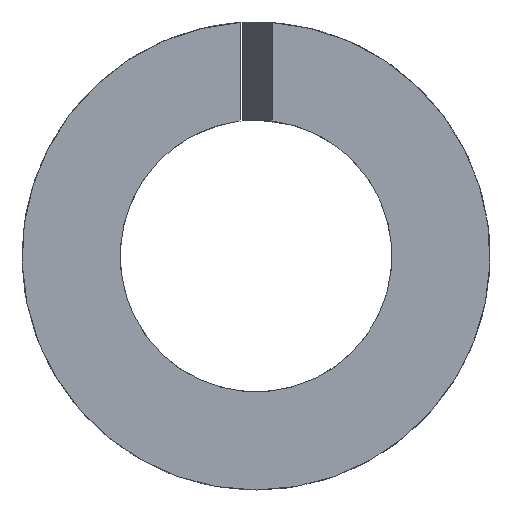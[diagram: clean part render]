
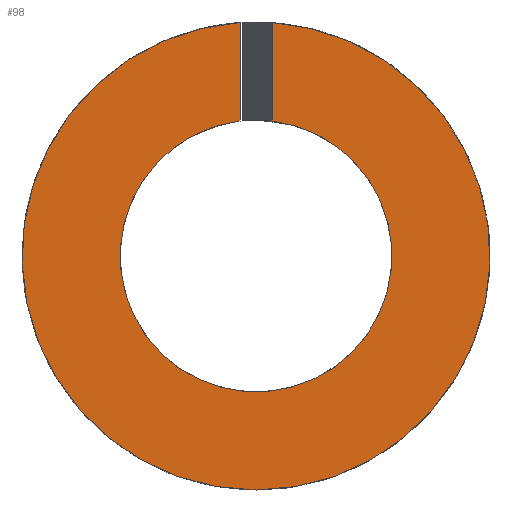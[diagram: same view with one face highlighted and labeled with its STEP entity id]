
A CAD part, left-side view. The second image highlights one B-rep face of the part: STEP entity #98.
In plain terms, the highlighted planar face has unit normal (-1, 0, 0).
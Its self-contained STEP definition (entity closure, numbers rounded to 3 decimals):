
#19=CIRCLE('',#132,6.1);
#20=CIRCLE('',#134,10.5);
#26=FACE_OUTER_BOUND('',#32,.T.);
#32=EDGE_LOOP('',(#85,#86,#87,#88));
#34=LINE('',#179,#38);
#35=LINE('',#185,#39);
#38=VECTOR('',#145,10.);
#39=VECTOR('',#150,10.);
#46=VERTEX_POINT('',#173);
#48=VERTEX_POINT('',#177);
#49=VERTEX_POINT('',#181);
#51=VERTEX_POINT('',#184);
#56=EDGE_CURVE('',#46,#48,#34,.T.);
#58=EDGE_CURVE('',#51,#49,#35,.T.);
#63=EDGE_CURVE('',#49,#46,#19,.T.);
#64=EDGE_CURVE('',#48,#51,#20,.T.);
#85=ORIENTED_EDGE('',*,*,#58,.T.);
#86=ORIENTED_EDGE('',*,*,#63,.T.);
#87=ORIENTED_EDGE('',*,*,#56,.T.);
#88=ORIENTED_EDGE('',*,*,#64,.T.);
#92=PLANE('',#135);
#98=ADVANCED_FACE('',(#26),#92,.T.);
#132=AXIS2_PLACEMENT_3D('',#193,#162,#163);
#134=AXIS2_PLACEMENT_3D('',#195,#166,#167);
#135=AXIS2_PLACEMENT_3D('',#196,#168,#169);
#145=DIRECTION('',(0.,0.,1.));
#150=DIRECTION('',(0.,0.,-1.));
#162=DIRECTION('center_axis',(1.,0.,0.));
#163=DIRECTION('ref_axis',(0.,-1.,0.));
#166=DIRECTION('center_axis',(-1.,0.,0.));
#167=DIRECTION('ref_axis',(0.,-1.,0.));
#168=DIRECTION('center_axis',(-1.,0.,0.));
#169=DIRECTION('ref_axis',(0.,0.,1.));
#173=CARTESIAN_POINT('',(0.,0.72,6.057));
#177=CARTESIAN_POINT('',(0.,0.72,10.475));
#179=CARTESIAN_POINT('',(0.,0.72,0.));
#181=CARTESIAN_POINT('',(0.,-0.72,6.057));
#184=CARTESIAN_POINT('',(0.,-0.72,10.475));
#185=CARTESIAN_POINT('',(0.,-0.72,0.));
#193=CARTESIAN_POINT('Origin',(0.,0.,0.));
#195=CARTESIAN_POINT('Origin',(0.,0.,0.));
#196=CARTESIAN_POINT('Origin',(0.,0.,0.));
